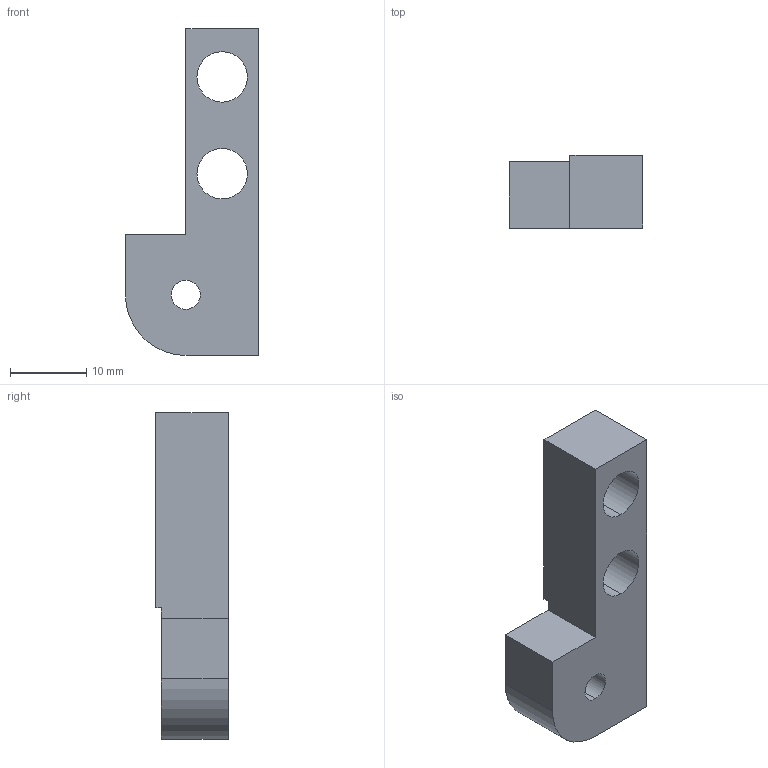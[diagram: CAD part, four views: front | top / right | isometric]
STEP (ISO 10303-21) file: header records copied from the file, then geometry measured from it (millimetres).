
FILE_DESCRIPTION (( 'STEP AP203' ), '1' );
FILE_NAME ('269-18-225.STEP', '2020-03-03T15:57:32', ( '' ), ( '' ), 'SwSTEP 2.0', 'SolidWorks 2017', '' );
FILE_SCHEMA (( 'CONFIG_CONTROL_DESIGN' ));
Length unit declared in the file: inch
Products named in the file (1): 269-18-225
Bounding box: 17.46 x 9.53 x 42.88 mm (x, y, z)
Volume: 3997.8 mm3; surface area: 2461.4 mm2
Topology: 1 solids, 1 shells, 19 faces, 49 edges, 32 vertices
Faces by surface type: plane 10, cylinder 7, cone 2
Entity records: 674 total; most frequent: DIRECTION 105, CARTESIAN_POINT 101, ORIENTED_EDGE 98, EDGE_CURVE 49, AXIS2_PLACEMENT_3D 36, LINE 33, VECTOR 33, VERTEX_POINT 32
